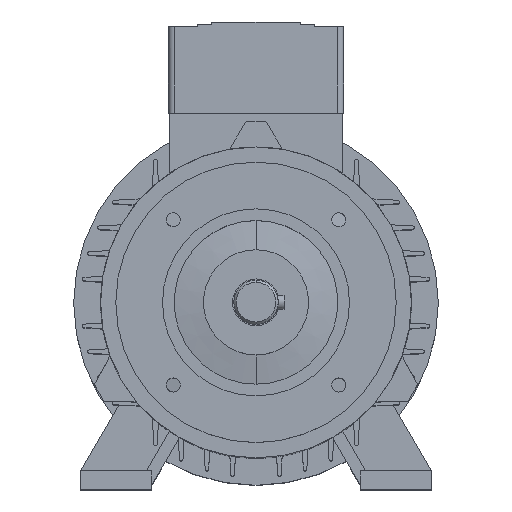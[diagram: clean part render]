
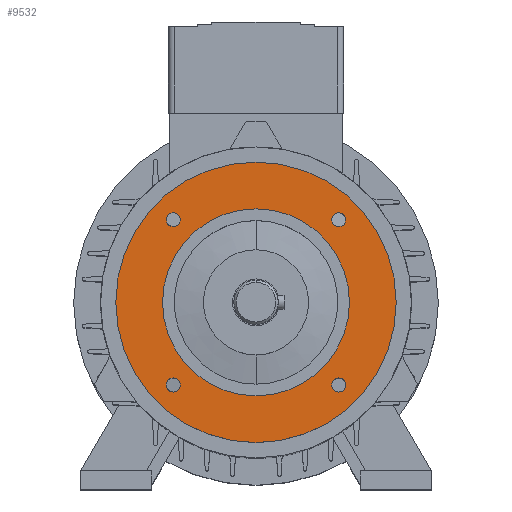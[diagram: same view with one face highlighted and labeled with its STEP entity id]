
A CAD part, top view. The second image highlights one B-rep face of the part: STEP entity #9532.
In plain terms, the highlighted planar face has unit normal (0, 0, 1).
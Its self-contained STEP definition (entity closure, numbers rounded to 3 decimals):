
#3081=CARTESIAN_POINT('',(-35.355,35.355,23.5));
#3082=DIRECTION('',(0.,0.,-1.));
#3083=DIRECTION('',(-1.,0.,0.));
#3084=AXIS2_PLACEMENT_3D('',#3081,#3082,#3083);
#3086=CARTESIAN_POINT('',(-35.355,35.355,23.5));
#3087=DIRECTION('',(0.,0.,-1.));
#3088=DIRECTION('',(1.,0.,0.));
#3089=AXIS2_PLACEMENT_3D('',#3086,#3087,#3088);
#3091=CARTESIAN_POINT('',(-35.355,-35.355,23.5));
#3092=DIRECTION('',(0.,0.,-1.));
#3093=DIRECTION('',(-1.,0.,0.));
#3094=AXIS2_PLACEMENT_3D('',#3091,#3092,#3093);
#3096=CARTESIAN_POINT('',(-35.355,-35.355,23.5));
#3097=DIRECTION('',(0.,0.,-1.));
#3098=DIRECTION('',(1.,0.,0.));
#3099=AXIS2_PLACEMENT_3D('',#3096,#3097,#3098);
#3101=CARTESIAN_POINT('',(35.355,-35.355,23.5));
#3102=DIRECTION('',(0.,0.,-1.));
#3103=DIRECTION('',(-1.,0.,0.));
#3104=AXIS2_PLACEMENT_3D('',#3101,#3102,#3103);
#3106=CARTESIAN_POINT('',(35.355,-35.355,23.5));
#3107=DIRECTION('',(0.,0.,-1.));
#3108=DIRECTION('',(1.,0.,0.));
#3109=AXIS2_PLACEMENT_3D('',#3106,#3107,#3108);
#3111=CARTESIAN_POINT('',(0.,0.,23.5));
#3112=DIRECTION('',(0.,0.,1.));
#3113=DIRECTION('',(0.,1.,0.));
#3114=AXIS2_PLACEMENT_3D('',#3111,#3112,#3113);
#3116=CARTESIAN_POINT('',(0.,0.,23.5));
#3117=DIRECTION('',(0.,0.,-1.));
#3118=DIRECTION('',(0.,1.,0.));
#3119=AXIS2_PLACEMENT_3D('',#3116,#3117,#3118);
#3121=CARTESIAN_POINT('',(35.355,35.355,23.5));
#3122=DIRECTION('',(0.,0.,-1.));
#3123=DIRECTION('',(-1.,0.,0.));
#3124=AXIS2_PLACEMENT_3D('',#3121,#3122,#3123);
#3126=CARTESIAN_POINT('',(35.355,35.355,23.5));
#3127=DIRECTION('',(0.,0.,-1.));
#3128=DIRECTION('',(1.,0.,0.));
#3129=AXIS2_PLACEMENT_3D('',#3126,#3127,#3128);
#3509=CARTESIAN_POINT('',(0.,0.,23.5));
#3510=DIRECTION('',(0.,0.,1.));
#3511=DIRECTION('',(0.,1.,0.));
#3512=AXIS2_PLACEMENT_3D('',#3509,#3510,#3511);
#3514=CARTESIAN_POINT('',(0.,0.,23.5));
#3515=DIRECTION('',(0.,0.,-1.));
#3516=DIRECTION('',(0.,1.,0.));
#3517=AXIS2_PLACEMENT_3D('',#3514,#3515,#3516);
#4215=CARTESIAN_POINT('',(0.,60.,23.5));
#4217=VERTEX_POINT('',#4215);
#4218=CARTESIAN_POINT('',(0.,40.,23.5));
#4220=VERTEX_POINT('',#4218);
#4223=CARTESIAN_POINT('',(0.,-60.,23.5));
#4225=VERTEX_POINT('',#4223);
#4226=CARTESIAN_POINT('',(0.,-40.,23.5));
#4228=VERTEX_POINT('',#4226);
#4238=CARTESIAN_POINT('',(32.355,35.355,23.5));
#4239=CARTESIAN_POINT('',(38.355,35.355,23.5));
#4240=VERTEX_POINT('',#4238);
#4241=VERTEX_POINT('',#4239);
#4242=CARTESIAN_POINT('',(32.355,-35.355,23.5));
#4243=CARTESIAN_POINT('',(38.355,-35.355,23.5));
#4244=VERTEX_POINT('',#4242);
#4245=VERTEX_POINT('',#4243);
#4246=CARTESIAN_POINT('',(-38.355,-35.355,23.5));
#4247=CARTESIAN_POINT('',(-32.355,-35.355,23.5));
#4248=VERTEX_POINT('',#4246);
#4249=VERTEX_POINT('',#4247);
#4250=CARTESIAN_POINT('',(-38.355,35.355,23.5));
#4251=CARTESIAN_POINT('',(-32.355,35.355,23.5));
#4252=VERTEX_POINT('',#4250);
#4253=VERTEX_POINT('',#4251);
#9493=CARTESIAN_POINT('',(0.,0.,23.5));
#9494=DIRECTION('',(0.,0.,-1.));
#9495=DIRECTION('',(0.,-1.,0.));
#9496=AXIS2_PLACEMENT_3D('',#9493,#9494,#9495);
#9497=PLANE('',#9496);
#9498=ORIENTED_EDGE('',*,*,#9486,.F.);
#9499=ORIENTED_EDGE('',*,*,#9475,.T.);
#9500=EDGE_LOOP('',(#9498,#9499));
#9501=FACE_OUTER_BOUND('',#9500,.F.);
#9503=ORIENTED_EDGE('',*,*,#9502,.F.);
#9505=ORIENTED_EDGE('',*,*,#9504,.F.);
#9506=EDGE_LOOP('',(#9503,#9505));
#9507=FACE_BOUND('',#9506,.F.);
#9509=ORIENTED_EDGE('',*,*,#9508,.F.);
#9511=ORIENTED_EDGE('',*,*,#9510,.F.);
#9512=EDGE_LOOP('',(#9509,#9511));
#9513=FACE_BOUND('',#9512,.F.);
#9515=ORIENTED_EDGE('',*,*,#9514,.F.);
#9517=ORIENTED_EDGE('',*,*,#9516,.F.);
#9518=EDGE_LOOP('',(#9515,#9517));
#9519=FACE_BOUND('',#9518,.F.);
#9521=ORIENTED_EDGE('',*,*,#9520,.F.);
#9523=ORIENTED_EDGE('',*,*,#9522,.T.);
#9524=EDGE_LOOP('',(#9521,#9523));
#9525=FACE_BOUND('',#9524,.F.);
#9527=ORIENTED_EDGE('',*,*,#9526,.F.);
#9529=ORIENTED_EDGE('',*,*,#9528,.F.);
#9530=EDGE_LOOP('',(#9527,#9529));
#9531=FACE_BOUND('',#9530,.F.);
#9532=ADVANCED_FACE('',(#9501,#9507,#9513,#9519,#9525,#9531),#9497,.F.);
#3085=CIRCLE('',#3084,3.);
#3090=CIRCLE('',#3089,3.);
#3095=CIRCLE('',#3094,3.);
#3100=CIRCLE('',#3099,3.);
#3105=CIRCLE('',#3104,3.);
#3110=CIRCLE('',#3109,3.);
#3115=CIRCLE('',#3114,60.);
#3120=CIRCLE('',#3119,60.);
#3125=CIRCLE('',#3124,3.);
#3130=CIRCLE('',#3129,3.);
#3513=CIRCLE('',#3512,40.);
#3518=CIRCLE('',#3517,40.);
#9475=EDGE_CURVE('',#4217,#4225,#3120,.T.);
#9486=EDGE_CURVE('',#4217,#4225,#3115,.T.);
#9502=EDGE_CURVE('',#4252,#4253,#3085,.T.);
#9504=EDGE_CURVE('',#4253,#4252,#3090,.T.);
#9508=EDGE_CURVE('',#4248,#4249,#3095,.T.);
#9510=EDGE_CURVE('',#4249,#4248,#3100,.T.);
#9514=EDGE_CURVE('',#4244,#4245,#3105,.T.);
#9516=EDGE_CURVE('',#4245,#4244,#3110,.T.);
#9520=EDGE_CURVE('',#4220,#4228,#3518,.T.);
#9522=EDGE_CURVE('',#4220,#4228,#3513,.T.);
#9526=EDGE_CURVE('',#4240,#4241,#3125,.T.);
#9528=EDGE_CURVE('',#4241,#4240,#3130,.T.);
